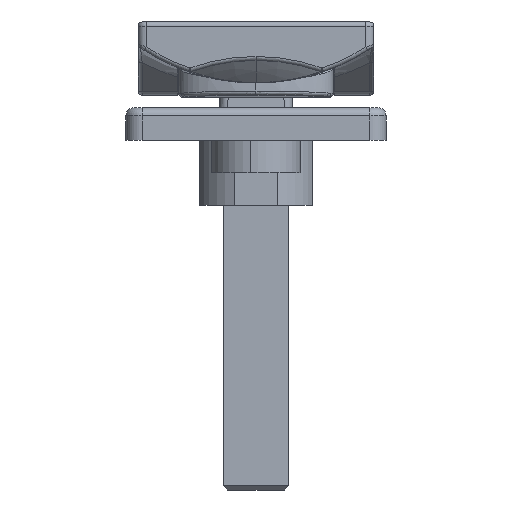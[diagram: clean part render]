
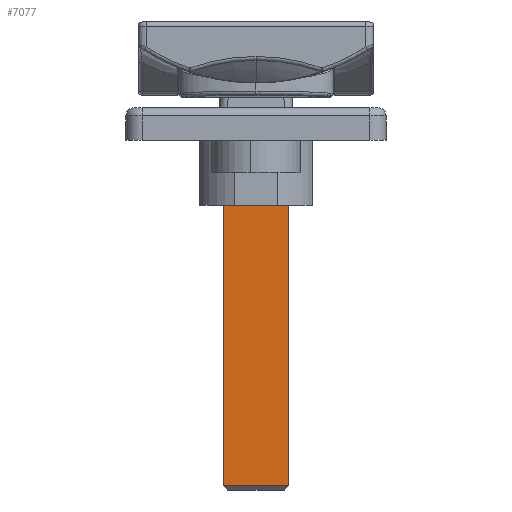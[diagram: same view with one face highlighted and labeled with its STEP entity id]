
A CAD part, front view. The second image highlights one B-rep face of the part: STEP entity #7077.
In plain terms, the highlighted planar face has unit normal (0, -1, 0) as drawn and (1, 0, 0) by its records, which use the part's own axes.
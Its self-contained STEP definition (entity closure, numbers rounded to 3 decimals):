
#33 = ORIENTED_EDGE ( 'NONE', *, *, #3202, .F. ) ;
#162 = ORIENTED_EDGE ( 'NONE', *, *, #4409, .F. ) ;
#261 = VERTEX_POINT ( 'NONE', #8757 ) ;
#767 = EDGE_CURVE ( 'NONE', #1854, #261, #8205, .T. ) ;
#1412 = CIRCLE ( 'NONE', #8448, 2.25 ) ;
#1719 = CARTESIAN_POINT ( 'NONE',  ( 4., 4., 42.5 ) ) ;
#1854 = VERTEX_POINT ( 'NONE', #1719 ) ;
#2248 = CARTESIAN_POINT ( 'NONE',  ( 4., -4., 0.5 ) ) ;
#2366 = VECTOR ( 'NONE', #5087, 1000. ) ;
#2501 = CARTESIAN_POINT ( 'NONE',  ( 4., 0., 4. ) ) ;
#2724 = ORIENTED_EDGE ( 'NONE', *, *, #6584, .T. ) ;
#2910 = DIRECTION ( 'NONE',  ( -1., 0., 0. ) ) ;
#2945 = VERTEX_POINT ( 'NONE', #5102 ) ;
#3117 = ORIENTED_EDGE ( 'NONE', *, *, #10109, .F. ) ;
#3202 = EDGE_CURVE ( 'NONE', #2945, #5332, #6044, .T. ) ;
#3752 = VERTEX_POINT ( 'NONE', #8246 ) ;
#3860 = EDGE_LOOP ( 'NONE', ( #2724, #5996, #162, #6699 ) ) ;
#4154 = VECTOR ( 'NONE', #7558, 1000. ) ;
#4201 = AXIS2_PLACEMENT_3D ( 'NONE', #2501, #5691, #8896 ) ;
#4364 = LINE ( 'NONE', #7659, #4154 ) ;
#4409 = EDGE_CURVE ( 'NONE', #1854, #3752, #4364, .T. ) ;
#4744 = VECTOR ( 'NONE', #5638, 1000. ) ;
#4926 = CARTESIAN_POINT ( 'NONE',  ( 4., -4., 43. ) ) ;
#4994 = DIRECTION ( 'NONE',  ( 0., 1., 0. ) ) ;
#5010 = EDGE_CURVE ( 'NONE', #6753, #3752, #5776, .T. ) ;
#5087 = DIRECTION ( 'NONE',  ( 0., 0., -1. ) ) ;
#5102 = CARTESIAN_POINT ( 'NONE',  ( 4., 0., 1.75 ) ) ;
#5332 = VERTEX_POINT ( 'NONE', #7009 ) ;
#5419 = DIRECTION ( 'NONE',  ( 0., -1., 0. ) ) ;
#5638 = DIRECTION ( 'NONE',  ( 0., -1., 0. ) ) ;
#5691 = DIRECTION ( 'NONE',  ( 1., 0., 0. ) ) ;
#5776 = LINE ( 'NONE', #7044, #9068 ) ;
#5996 = ORIENTED_EDGE ( 'NONE', *, *, #5010, .T. ) ;
#6044 = CIRCLE ( 'NONE', #4201, 2.25 ) ;
#6135 = CARTESIAN_POINT ( 'NONE',  ( 4., 0., 4. ) ) ;
#6152 = CARTESIAN_POINT ( 'NONE',  ( 4., 4., 43. ) ) ;
#6584 = EDGE_CURVE ( 'NONE', #261, #6753, #8112, .T. ) ;
#6699 = ORIENTED_EDGE ( 'NONE', *, *, #767, .T. ) ;
#6753 = VERTEX_POINT ( 'NONE', #2248 ) ;
#6967 = DIRECTION ( 'NONE',  ( 1., 0., 0. ) ) ;
#7009 = CARTESIAN_POINT ( 'NONE',  ( 4., 0., 6.25 ) ) ;
#7044 = CARTESIAN_POINT ( 'NONE',  ( 4., 4., 0.5 ) ) ;
#7077 = ADVANCED_FACE ( 'NONE', ( #10286, #8555 ), #9296, .F. ) ;
#7558 = DIRECTION ( 'NONE',  ( 0., 0., -1. ) ) ;
#7659 = CARTESIAN_POINT ( 'NONE',  ( 4., 4., 43. ) ) ;
#8112 = LINE ( 'NONE', #4926, #2366 ) ;
#8205 = LINE ( 'NONE', #9729, #4744 ) ;
#8246 = CARTESIAN_POINT ( 'NONE',  ( 4., 4., 0.5 ) ) ;
#8405 = AXIS2_PLACEMENT_3D ( 'NONE', #6152, #2910, #5419 ) ;
#8448 = AXIS2_PLACEMENT_3D ( 'NONE', #6135, #6967, #8589 ) ;
#8555 = FACE_OUTER_BOUND ( 'NONE', #3860, .T. ) ;
#8589 = DIRECTION ( 'NONE',  ( 0., 0., -1. ) ) ;
#8757 = CARTESIAN_POINT ( 'NONE',  ( 4., -4., 42.5 ) ) ;
#8896 = DIRECTION ( 'NONE',  ( 0., 0., -1. ) ) ;
#9068 = VECTOR ( 'NONE', #4994, 1000. ) ;
#9296 = PLANE ( 'NONE',  #8405 ) ;
#9729 = CARTESIAN_POINT ( 'NONE',  ( 4., -4., 42.5 ) ) ;
#10109 = EDGE_CURVE ( 'NONE', #5332, #2945, #1412, .T. ) ;
#10286 = FACE_BOUND ( 'NONE', #10292, .T. ) ;
#10292 = EDGE_LOOP ( 'NONE', ( #33, #3117 ) ) ;
